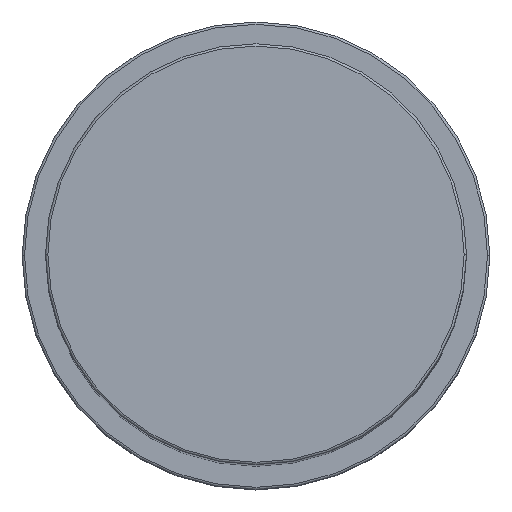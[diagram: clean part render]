
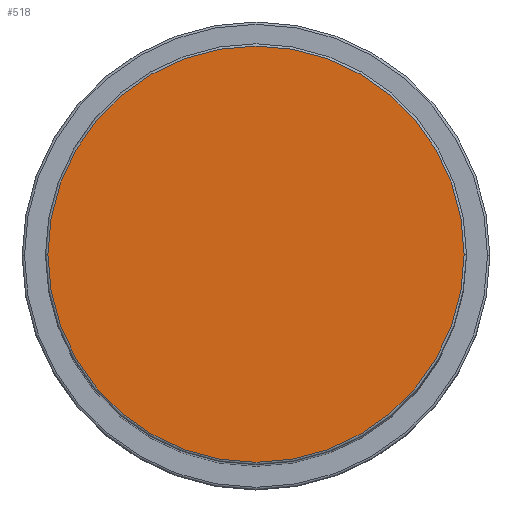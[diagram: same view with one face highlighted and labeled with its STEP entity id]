
A CAD part, top view. The second image highlights one B-rep face of the part: STEP entity #518.
In plain terms, the highlighted planar face has unit normal (0, 0, 1).
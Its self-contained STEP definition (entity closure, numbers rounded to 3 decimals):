
#29 = CARTESIAN_POINT ( 'NONE',  ( 44.5, 0., 219. ) ) ;
#143 = ORIENTED_EDGE ( 'NONE', *, *, #562, .T. ) ;
#378 = DIRECTION ( 'NONE',  ( 0., 0., 1. ) ) ;
#392 = FACE_OUTER_BOUND ( 'NONE', #1367, .T. ) ;
#400 = DIRECTION ( 'NONE',  ( 1., 0., 0. ) ) ;
#518 = ADVANCED_FACE ( 'NONE', ( #392 ), #1376, .T. ) ;
#562 = EDGE_CURVE ( 'NONE', #1778, #1584, #1193, .T. ) ;
#564 = DIRECTION ( 'NONE',  ( 1., 0., 0. ) ) ;
#571 = DIRECTION ( 'NONE',  ( 0., 0., 1. ) ) ;
#572 = AXIS2_PLACEMENT_3D ( 'NONE', #1777, #378, #400 ) ;
#697 = DIRECTION ( 'NONE',  ( 0., 0., 1. ) ) ;
#1131 = CARTESIAN_POINT ( 'NONE',  ( 0., 0., 219. ) ) ;
#1173 = AXIS2_PLACEMENT_3D ( 'NONE', #1131, #571, #564 ) ;
#1193 = CIRCLE ( 'NONE', #1173, 44.5 ) ;
#1308 = ORIENTED_EDGE ( 'NONE', *, *, #1716, .T. ) ;
#1349 = CARTESIAN_POINT ( 'NONE',  ( -44.5, 0., 219. ) ) ;
#1367 = EDGE_LOOP ( 'NONE', ( #143, #1308 ) ) ;
#1368 = AXIS2_PLACEMENT_3D ( 'NONE', #1524, #697, #1662 ) ;
#1376 = PLANE ( 'NONE',  #572 ) ;
#1524 = CARTESIAN_POINT ( 'NONE',  ( 0., 0., 219. ) ) ;
#1570 = CIRCLE ( 'NONE', #1368, 44.5 ) ;
#1584 = VERTEX_POINT ( 'NONE', #1349 ) ;
#1662 = DIRECTION ( 'NONE',  ( 1., 0., 0. ) ) ;
#1716 = EDGE_CURVE ( 'NONE', #1584, #1778, #1570, .T. ) ;
#1777 = CARTESIAN_POINT ( 'NONE',  ( 0., 0., 219. ) ) ;
#1778 = VERTEX_POINT ( 'NONE', #29 ) ;
